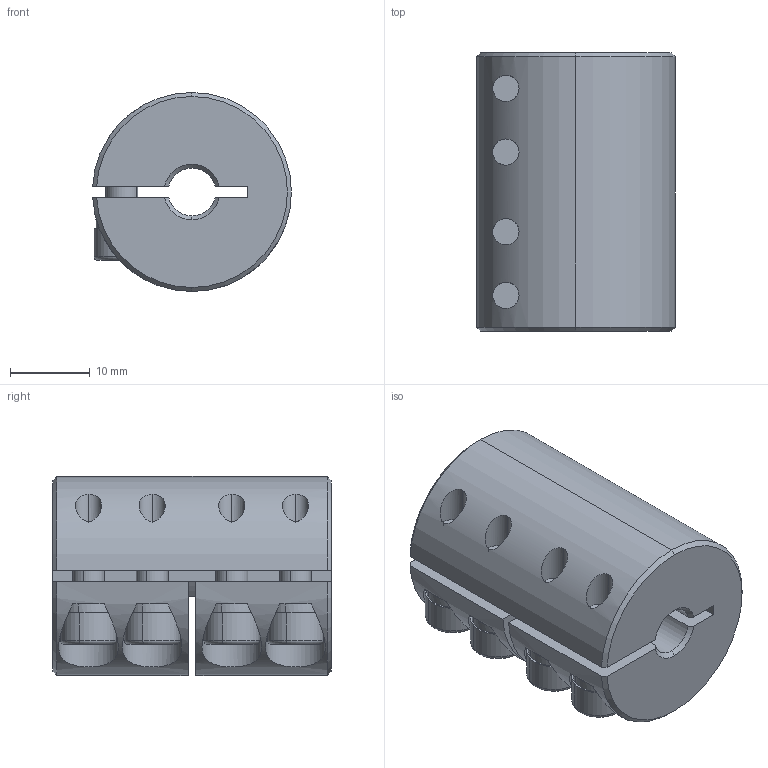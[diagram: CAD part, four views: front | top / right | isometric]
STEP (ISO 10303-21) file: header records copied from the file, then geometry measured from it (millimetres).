
FILE_DESCRIPTION (( 'STEP AP203' ), '1' );
FILE_NAME ('LL-B-D25L35-6-6.STEP', '2021-11-05T06:52:07', ( '' ), ( '' ), 'SwSTEP 2.0', 'SolidWorks 2018', '' );
FILE_SCHEMA (( 'CONFIG_CONTROL_DESIGN' ));
Length unit declared in the file: millimetre
Products named in the file (1): LL-B-D25L35-6-6
Bounding box: 24.98 x 35 x 25 mm (x, y, z)
Volume: 15014 mm3; surface area: 6868 mm2
Topology: 1 solids, 1 shells, 187 faces, 478 edges, 297 vertices
Faces by surface type: plane 90, cylinder 69, cone 20, torus 8
Entity records: 6142 total; most frequent: CARTESIAN_POINT 1467, DIRECTION 1011, ORIENTED_EDGE 940, EDGE_CURVE 470, AXIS2_PLACEMENT_3D 393, VERTEX_POINT 297, LINE 225, VECTOR 225
